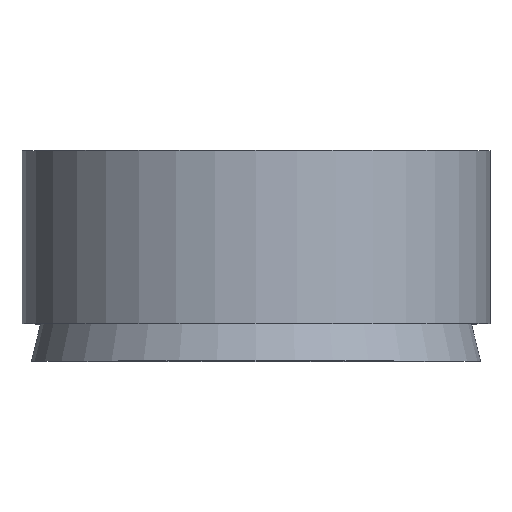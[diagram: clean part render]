
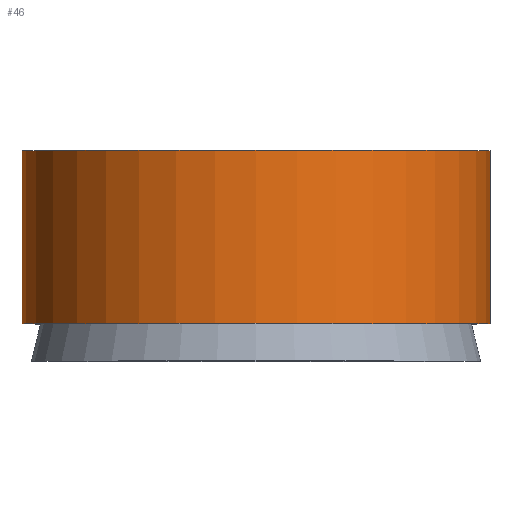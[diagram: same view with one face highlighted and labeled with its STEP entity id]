
A CAD part, top view. The second image highlights one B-rep face of the part: STEP entity #46.
In plain terms, the highlighted cylindrical face has radius 5 mm (diameter 10 mm), a full revolution.
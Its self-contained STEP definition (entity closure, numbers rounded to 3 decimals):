
#46 = ADVANCED_FACE( '', ( #93, #94 ), #95, .T. );
#93 = FACE_OUTER_BOUND( '', #132, .T. );
#94 = FACE_OUTER_BOUND( '', #133, .T. );
#95 = CYLINDRICAL_SURFACE( '', #134, 5. );
#132 = EDGE_LOOP( '', ( #179 ) );
#133 = EDGE_LOOP( '', ( #180 ) );
#134 = AXIS2_PLACEMENT_3D( '', #181, #182, #183 );
#179 = ORIENTED_EDGE( '', *, *, #189, .F. );
#180 = ORIENTED_EDGE( '', *, *, #198, .T. );
#181 = CARTESIAN_POINT( '', ( 0., -60., 0. ) );
#182 = DIRECTION( '', ( 0., 1., 0. ) );
#183 = DIRECTION( '', ( 0., 0., -1. ) );
#189 = EDGE_CURVE( '', #208, #208, #209, .T. );
#198 = EDGE_CURVE( '', #221, #221, #222, .T. );
#208 = VERTEX_POINT( '', #232 );
#209 = CIRCLE( '', #233, 5. );
#221 = VERTEX_POINT( '', #245 );
#222 = CIRCLE( '', #246, 5. );
#232 = CARTESIAN_POINT( '', ( 0., 0.8, -5. ) );
#233 = AXIS2_PLACEMENT_3D( '', #257, #258, #259 );
#245 = CARTESIAN_POINT( '', ( 0., 4.5, -5. ) );
#246 = AXIS2_PLACEMENT_3D( '', #269, #270, #271 );
#257 = CARTESIAN_POINT( '', ( 0., 0.8, 0. ) );
#258 = DIRECTION( '', ( 0., -1., 0. ) );
#259 = DIRECTION( '', ( 0., 0., -1. ) );
#269 = CARTESIAN_POINT( '', ( 0., 4.5, 0. ) );
#270 = DIRECTION( '', ( 0., -1., 0. ) );
#271 = DIRECTION( '', ( 0., 0., -1. ) );
